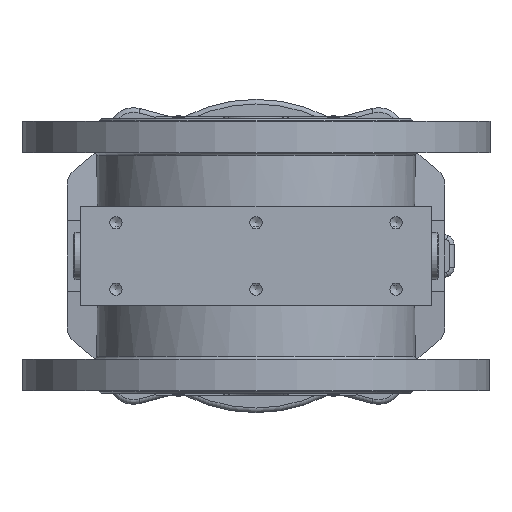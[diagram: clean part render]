
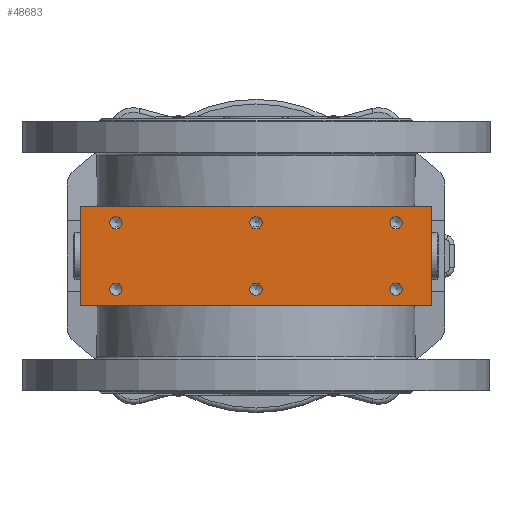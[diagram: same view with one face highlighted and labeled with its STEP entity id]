
A CAD part, front view. The second image highlights one B-rep face of the part: STEP entity #48683.
In plain terms, the highlighted planar face has unit normal (0, -1, 0).
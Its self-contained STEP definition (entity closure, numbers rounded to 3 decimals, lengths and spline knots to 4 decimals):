
#5077=LINE('',#92102,#8073);
#5176=LINE('',#93290,#8172);
#5185=LINE('',#93313,#8181);
#5186=LINE('',#93314,#8182);
#8073=VECTOR('',#65455,0.3937);
#8172=VECTOR('',#65858,0.3937);
#8181=VECTOR('',#65883,0.3937);
#8182=VECTOR('',#65884,0.3937);
#9757=FACE_BOUND('',#15031,.T.);
#9758=FACE_BOUND('',#15032,.T.);
#9759=FACE_BOUND('',#15033,.T.);
#9760=FACE_BOUND('',#15034,.T.);
#9761=FACE_BOUND('',#15035,.T.);
#9762=FACE_BOUND('',#15036,.T.);
#11905=FACE_OUTER_BOUND('',#15030,.T.);
#15030=EDGE_LOOP('',(#41562,#41563,#41564,#41565));
#15031=EDGE_LOOP('',(#41566,#41567));
#15032=EDGE_LOOP('',(#41568,#41569));
#15033=EDGE_LOOP('',(#41570,#41571));
#15034=EDGE_LOOP('',(#41572,#41573));
#15035=EDGE_LOOP('',(#41574,#41575));
#15036=EDGE_LOOP('',(#41576,#41577));
#18308=CIRCLE('',#54036,0.1308);
#18309=CIRCLE('',#54037,0.1308);
#18310=CIRCLE('',#54038,0.1308);
#18311=CIRCLE('',#54039,0.1308);
#18312=CIRCLE('',#54040,0.1308);
#18313=CIRCLE('',#54041,0.1308);
#18314=CIRCLE('',#54042,0.1308);
#18315=CIRCLE('',#54043,0.1308);
#18316=CIRCLE('',#54044,0.1308);
#18317=CIRCLE('',#54045,0.1308);
#18318=CIRCLE('',#54046,0.1308);
#18319=CIRCLE('',#54047,0.1308);
#22157=VERTEX_POINT('',#92099);
#22158=VERTEX_POINT('',#92101);
#22328=VERTEX_POINT('',#93287);
#22329=VERTEX_POINT('',#93289);
#22336=VERTEX_POINT('',#93315);
#22337=VERTEX_POINT('',#93316);
#22338=VERTEX_POINT('',#93319);
#22339=VERTEX_POINT('',#93320);
#22340=VERTEX_POINT('',#93323);
#22341=VERTEX_POINT('',#93324);
#22342=VERTEX_POINT('',#93327);
#22343=VERTEX_POINT('',#93328);
#22344=VERTEX_POINT('',#93331);
#22345=VERTEX_POINT('',#93332);
#22346=VERTEX_POINT('',#93335);
#22347=VERTEX_POINT('',#93336);
#28807=EDGE_CURVE('',#22157,#22158,#5077,.T.);
#29040=EDGE_CURVE('',#22328,#22329,#5176,.T.);
#29053=EDGE_CURVE('',#22328,#22158,#5185,.T.);
#29054=EDGE_CURVE('',#22157,#22329,#5186,.T.);
#29055=EDGE_CURVE('',#22336,#22337,#18308,.T.);
#29056=EDGE_CURVE('',#22337,#22336,#18309,.T.);
#29057=EDGE_CURVE('',#22338,#22339,#18310,.T.);
#29058=EDGE_CURVE('',#22339,#22338,#18311,.T.);
#29059=EDGE_CURVE('',#22340,#22341,#18312,.T.);
#29060=EDGE_CURVE('',#22341,#22340,#18313,.T.);
#29061=EDGE_CURVE('',#22342,#22343,#18314,.T.);
#29062=EDGE_CURVE('',#22343,#22342,#18315,.T.);
#29063=EDGE_CURVE('',#22344,#22345,#18316,.T.);
#29064=EDGE_CURVE('',#22345,#22344,#18317,.T.);
#29065=EDGE_CURVE('',#22346,#22347,#18318,.T.);
#29066=EDGE_CURVE('',#22347,#22346,#18319,.T.);
#41562=ORIENTED_EDGE('',*,*,#29053,.T.);
#41563=ORIENTED_EDGE('',*,*,#28807,.F.);
#41564=ORIENTED_EDGE('',*,*,#29054,.T.);
#41565=ORIENTED_EDGE('',*,*,#29040,.F.);
#41566=ORIENTED_EDGE('',*,*,#29055,.T.);
#41567=ORIENTED_EDGE('',*,*,#29056,.T.);
#41568=ORIENTED_EDGE('',*,*,#29057,.T.);
#41569=ORIENTED_EDGE('',*,*,#29058,.T.);
#41570=ORIENTED_EDGE('',*,*,#29059,.T.);
#41571=ORIENTED_EDGE('',*,*,#29060,.T.);
#41572=ORIENTED_EDGE('',*,*,#29061,.T.);
#41573=ORIENTED_EDGE('',*,*,#29062,.T.);
#41574=ORIENTED_EDGE('',*,*,#29063,.T.);
#41575=ORIENTED_EDGE('',*,*,#29064,.T.);
#41576=ORIENTED_EDGE('',*,*,#29065,.T.);
#41577=ORIENTED_EDGE('',*,*,#29066,.T.);
#46220=PLANE('',#54035);
#48683=ADVANCED_FACE('',(#11905,#9757,#9758,#9759,#9760,#9761,#9762),#46220,
 .T.);
#54035=AXIS2_PLACEMENT_3D('',#93312,#65881,#65882);
#54036=AXIS2_PLACEMENT_3D('',#93317,#65885,#65886);
#54037=AXIS2_PLACEMENT_3D('',#93318,#65887,#65888);
#54038=AXIS2_PLACEMENT_3D('',#93321,#65889,#65890);
#54039=AXIS2_PLACEMENT_3D('',#93322,#65891,#65892);
#54040=AXIS2_PLACEMENT_3D('',#93325,#65893,#65894);
#54041=AXIS2_PLACEMENT_3D('',#93326,#65895,#65896);
#54042=AXIS2_PLACEMENT_3D('',#93329,#65897,#65898);
#54043=AXIS2_PLACEMENT_3D('',#93330,#65899,#65900);
#54044=AXIS2_PLACEMENT_3D('',#93333,#65901,#65902);
#54045=AXIS2_PLACEMENT_3D('',#93334,#65903,#65904);
#54046=AXIS2_PLACEMENT_3D('',#93337,#65905,#65906);
#54047=AXIS2_PLACEMENT_3D('',#93338,#65907,#65908);
#65455=DIRECTION('',(-1.,0.,0.));
#65858=DIRECTION('',(1.,0.,0.));
#65881=DIRECTION('center_axis',(0.,-1.,0.));
#65882=DIRECTION('ref_axis',(0.,0.,
1.));
#65883=DIRECTION('',(0.,0.,-1.));
#65884=DIRECTION('',(0.,0.,1.));
#65885=DIRECTION('center_axis',(0.,1.,0.));
#65886=DIRECTION('ref_axis',(-1.,0.,0.));
#65887=DIRECTION('center_axis',(0.,1.,0.));
#65888=DIRECTION('ref_axis',(-1.,0.,0.));
#65889=DIRECTION('center_axis',(0.,1.,0.));
#65890=DIRECTION('ref_axis',(-1.,0.,0.));
#65891=DIRECTION('center_axis',(0.,1.,0.));
#65892=DIRECTION('ref_axis',(-1.,0.,0.));
#65893=DIRECTION('center_axis',(0.,1.,0.));
#65894=DIRECTION('ref_axis',(-1.,0.,0.));
#65895=DIRECTION('center_axis',(0.,1.,0.));
#65896=DIRECTION('ref_axis',(-1.,0.,0.));
#65897=DIRECTION('center_axis',(0.,1.,0.));
#65898=DIRECTION('ref_axis',(-1.,0.,0.));
#65899=DIRECTION('center_axis',(0.,1.,0.));
#65900=DIRECTION('ref_axis',(-1.,0.,0.));
#65901=DIRECTION('center_axis',(0.,1.,0.));
#65902=DIRECTION('ref_axis',(-1.,0.,0.));
#65903=DIRECTION('center_axis',(0.,1.,0.));
#65904=DIRECTION('ref_axis',(-1.,0.,0.));
#65905=DIRECTION('center_axis',(0.,1.,0.));
#65906=DIRECTION('ref_axis',(-1.,0.,0.));
#65907=DIRECTION('center_axis',(0.,1.,0.));
#65908=DIRECTION('ref_axis',(-1.,0.,0.));
#92099=CARTESIAN_POINT('',(3.7402,-4.8622,-1.063));
#92101=CARTESIAN_POINT('',(-3.7402,-4.8622,-1.063));
#92102=CARTESIAN_POINT('',(-3.7402,-4.8622,-1.063));
#93287=CARTESIAN_POINT('',(-3.7402,-4.8622,1.063));
#93289=CARTESIAN_POINT('',(3.7402,-4.8622,1.063));
#93290=CARTESIAN_POINT('',(3.7402,-4.8622,1.063));
#93312=CARTESIAN_POINT('Origin',(1.8701,-4.8622,-0.5315));
#93313=CARTESIAN_POINT('',(-3.7402,-4.8622,0.));
#93314=CARTESIAN_POINT('',(3.7402,-4.8622,0.));
#93315=CARTESIAN_POINT('',(-0.1308,-4.8622,0.7087));
#93316=CARTESIAN_POINT('',(0.1308,-4.8622,0.7087));
#93317=CARTESIAN_POINT('Origin',(0.,-4.8622,
0.7087));
#93318=CARTESIAN_POINT('Origin',(0.,-4.8622,
0.7087));
#93319=CARTESIAN_POINT('',(-3.123,-4.8622,-0.7087));
#93320=CARTESIAN_POINT('',(-2.8613,-4.8622,-0.7087));
#93321=CARTESIAN_POINT('Origin',(-2.9921,-4.8622,-0.7087));
#93322=CARTESIAN_POINT('Origin',(-2.9921,-4.8622,-0.7087));
#93323=CARTESIAN_POINT('',(2.8613,-4.8622,-0.7087));
#93324=CARTESIAN_POINT('',(3.123,-4.8622,-0.7087));
#93325=CARTESIAN_POINT('Origin',(2.9921,-4.8622,-0.7087));
#93326=CARTESIAN_POINT('Origin',(2.9921,-4.8622,-0.7087));
#93327=CARTESIAN_POINT('',(-0.1308,-4.8622,-0.7087));
#93328=CARTESIAN_POINT('',(0.1308,-4.8622,-0.7087));
#93329=CARTESIAN_POINT('Origin',(0.,-4.8622,
-0.7087));
#93330=CARTESIAN_POINT('Origin',(0.,-4.8622,
-0.7087));
#93331=CARTESIAN_POINT('',(2.8613,-4.8622,0.7087));
#93332=CARTESIAN_POINT('',(3.123,-4.8622,0.7087));
#93333=CARTESIAN_POINT('Origin',(2.9921,-4.8622,0.7087));
#93334=CARTESIAN_POINT('Origin',(2.9921,-4.8622,0.7087));
#93335=CARTESIAN_POINT('',(-3.123,-4.8622,0.7087));
#93336=CARTESIAN_POINT('',(-2.8613,-4.8622,0.7087));
#93337=CARTESIAN_POINT('Origin',(-2.9921,-4.8622,0.7087));
#93338=CARTESIAN_POINT('Origin',(-2.9921,-4.8622,0.7087));
